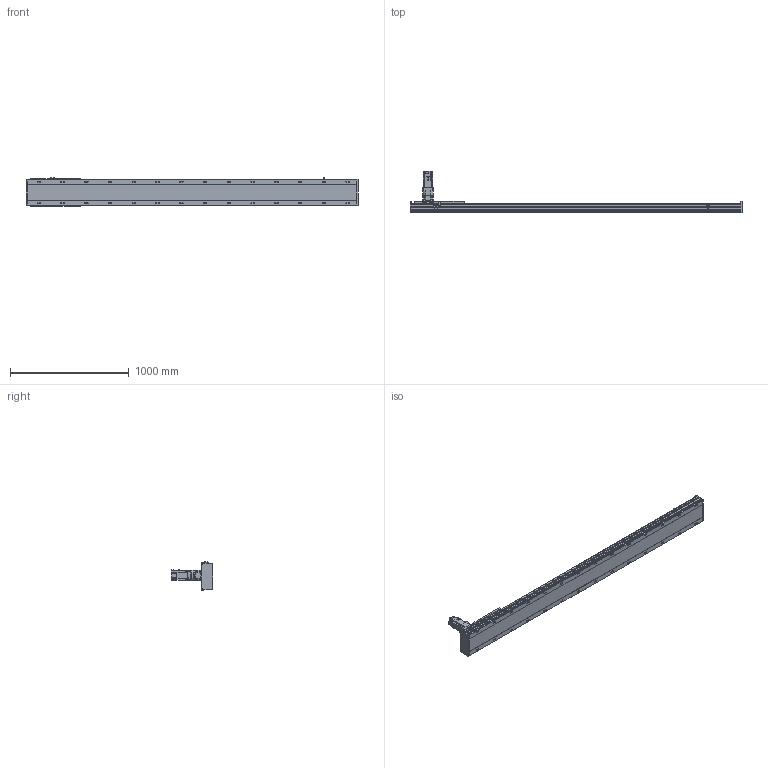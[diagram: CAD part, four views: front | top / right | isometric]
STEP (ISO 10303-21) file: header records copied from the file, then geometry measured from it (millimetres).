
FILE_DESCRIPTION(/* description */ ('STEP AP214'),/* implementation_level */ '2;1');
FILE_NAME(/* name */ 'SHS22A-L13-S2300-BC-T75-C1-N(0)',/* time_stamp */ '2022-06-15T02:27:25+02:00',/* author */ ('License CC BY-ND 4.0'),/* organization */ ('CADENAS'),/* preprocessor_version */ 'ST-DEVELOPER v18.102',/* originating_system */ 'PARTsolutions',/* authorisation */ ' ');
FILE_SCHEMA (('AUTOMOTIVE_DESIGN {1 0 10303 214 3 1 1}'));
Length unit declared in the file: millimetre
Products named in the file (7): SHS22A-L13-S2300-BC-T75-C1-N(0); PSC140-sensor; SHS22A-S2300_body2; T75-p1; SHS22A-S2300_body3; SHS22A-S2300_slider; SHS22A-L13-S2300-BC-T75-C1(0)_body
Assembly tree (13 placements, depth 2):
  SHS22A-L13-S2300-BC-T75-C1-N(0)
    PSC140-sensor  x3
    SHS22A-S2300_body2  x6
    T75-p1
    SHS22A-S2300_body3
    SHS22A-S2300_slider
    SHS22A-L13-S2300-BC-T75-C1(0)_body
Bounding box: 2794 x 350.8 x 238.4 mm (x, y, z)
Volume: 31229444.4 mm3; surface area: 3249615.3 mm2
Topology: 13 solids, 13 shells, 1869 faces, 4807 edges, 3148 vertices
Faces by surface type: plane 1336, cylinder 431, cone 93, torus 9
Full cylindrical faces by diameter (mm): 2.8 x3, 4.2 x2, 4.6 x3, 4.917 x4, 5 x4, 5.6 x24, 6 x31, 6.6 x24, 6.647 x8, 6.8 x9, 7.75 x6, 8 x3, 8.376 x28, 8.5 x28, 10 x4, 11 x4, 12 x24, 14 x28, 22 x1, 24.1 x1, 28 x1, 28.2 x1, 28.8 x1, 48.542 x1, 68 x1, 70 x1, 78 x1, 80 x2
Entity records: 30970 total; most frequent: CARTESIAN_POINT 5537, DIRECTION 5243, ORIENTED_EDGE 4764, EDGE_CURVE 2382, AXIS2_PLACEMENT_3D 1836, VERTEX_POINT 1710, FACE_BOUND 1604, EDGE_LOOP 1603
